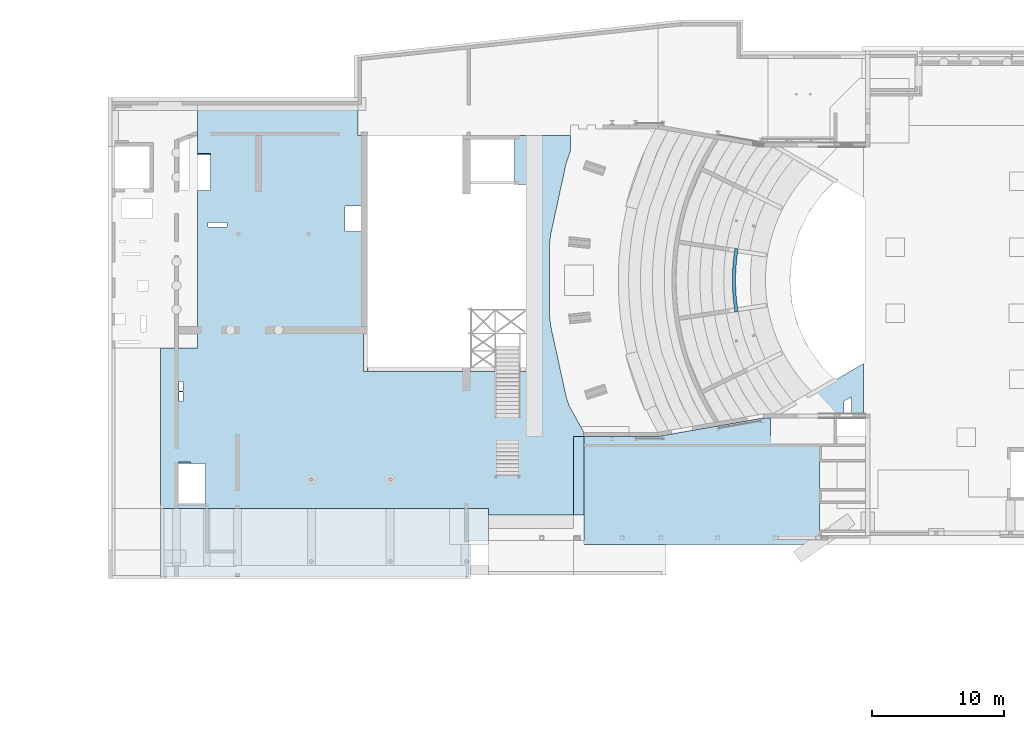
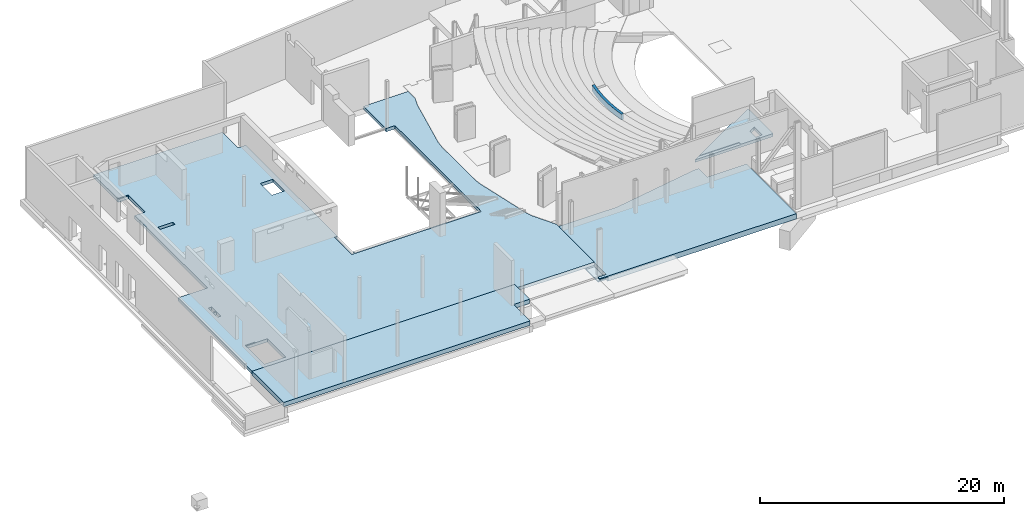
# One storey, part 31 of 34: 4 slabs, 1 beam.
"""IFC2X3 building model written with IfcOpenShell, lengths in millimetres."""

from ifc_helpers import new_model, entity, si_unit, converted_unit, derived_unit, direction, frame, origin, place, context, subcontext, project, spatial, faceted_brep, material, type_object, element, save


model = new_model("IFC2X3")

# Units and contexts
model_context = context("Model", 3, precision=0.01, world=origin(), true_north=direction((6.12303176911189e-17, 1.0)))
body_context = subcontext(model_context, "Body", "Model", "MODEL_VIEW")
ifc_project = project(units=[si_unit("LENGTHUNIT", "METRE", prefix="MILLI"), si_unit("AREAUNIT", "SQUARE_METRE", prefix="MILLI"), si_unit("VOLUMEUNIT", "CUBIC_METRE"), converted_unit("PLANEANGLEUNIT", "DEGREE", entity("IfcRatioMeasure", 0.0174532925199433), si_unit("PLANEANGLEUNIT", "RADIAN"), dimensions=[0, 0, 0, 0, 0, 0, 0]), si_unit("MASSUNIT", "GRAM", prefix="KILO"), derived_unit("MASSDENSITYUNIT", [(si_unit("MASSUNIT", "GRAM", prefix="KILO"), 1), (si_unit("LENGTHUNIT", "METRE"), -3)]), derived_unit("MOMENTOFINERTIAUNIT", [(si_unit("LENGTHUNIT", "METRE"), 4)]), si_unit("TIMEUNIT", "SECOND"), si_unit("FREQUENCYUNIT", "HERTZ"), si_unit("THERMODYNAMICTEMPERATUREUNIT", "DEGREE_CELSIUS"), derived_unit("THERMALTRANSMITTANCEUNIT", [(si_unit("MASSUNIT", "GRAM", prefix="KILO"), 1), (si_unit("THERMODYNAMICTEMPERATUREUNIT", "KELVIN"), -1), (si_unit("TIMEUNIT", "SECOND"), -3)]), derived_unit("VOLUMETRICFLOWRATEUNIT", [(si_unit("LENGTHUNIT", "METRE"), 3), (si_unit("TIMEUNIT", "SECOND"), -1)]), si_unit("ELECTRICCURRENTUNIT", "AMPERE"), si_unit("ELECTRICVOLTAGEUNIT", "VOLT"), si_unit("POWERUNIT", "WATT"), si_unit("FORCEUNIT", "NEWTON", prefix="KILO"), si_unit("ILLUMINANCEUNIT", "LUX"), si_unit("LUMINOUSFLUXUNIT", "LUMEN"), si_unit("LUMINOUSINTENSITYUNIT", "CANDELA"), derived_unit("USERDEFINED", [(si_unit("MASSUNIT", "GRAM", prefix="KILO"), -1), (si_unit("LENGTHUNIT", "METRE"), -2), (si_unit("TIMEUNIT", "SECOND"), 3), (si_unit("LUMINOUSFLUXUNIT", "LUMEN"), 1)]), derived_unit("LINEARVELOCITYUNIT", [(si_unit("LENGTHUNIT", "METRE"), 1), (si_unit("TIMEUNIT", "SECOND"), -1)]), si_unit("PRESSUREUNIT", "PASCAL"), derived_unit("USERDEFINED", [(si_unit("LENGTHUNIT", "METRE"), -2), (si_unit("MASSUNIT", "GRAM", prefix="KILO"), 1), (si_unit("TIMEUNIT", "SECOND"), -2)]), derived_unit("LINEARFORCEUNIT", [(si_unit("MASSUNIT", "GRAM", prefix="KILO"), 1), (si_unit("LENGTHUNIT", "METRE"), 1), (si_unit("TIMEUNIT", "SECOND"), -2), (si_unit("LENGTHUNIT", "METRE"), -1)]), derived_unit("PLANARFORCEUNIT", [(si_unit("MASSUNIT", "GRAM", prefix="KILO"), 1), (si_unit("LENGTHUNIT", "METRE"), 1), (si_unit("TIMEUNIT", "SECOND"), -2), (si_unit("LENGTHUNIT", "METRE"), -2)])], contexts=[model_context])

# Site, building, storey
site_placement = place(None, origin())
site = spatial("IfcSite", under=ifc_project, at=site_placement, Name="Theater aan de Parade", CompositionType="ELEMENT")
building_placement = place(site_placement, origin())
building = spatial("IfcBuilding", under=site, at=building_placement, Name="Theater aan de Parade", CompositionType="ELEMENT")
storey_placement = place(building_placement, frame((0.0, 0.0, 3.49116848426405e-09)))
storey = spatial("IfcBuildingStorey", under=building, at=storey_placement, Name="00 begane grond", CompositionType="ELEMENT", Elevation=3.49116848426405e-09)

# Beam
ifc_material_1 = material(Name="00_PBT_MAT_beton t.p.g.")
beam_type = type_object("IfcBeamType", Name="28_PBT_SF_betonbalk:250x580_bestaand", PredefinedType="NOTDEFINED")
beam_placement = place(storey_placement, frame((57279.5739373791, 30050.2210361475, 770.0)))
element("IfcBeam", 1, at=beam_placement, inside=storey, type_object=beam_type, material=ifc_material_1, Name="28_PBT_SF_betonbalk:250x580_bestaand", ObjectType="28_PBT_SF_betonbalk:250x580_bestaand", context=body_context, shape_type="Brep", body=[
    faceted_brep([(262.668675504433, 1800.38793189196, 580.0), (251.746790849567, 2205.92074467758, 580.0), (251.998499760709, 2611.60052782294, 580.0), (263.423611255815, 3017.11947514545, 580.0), (286.013456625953, 3422.16990249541, 580.0), (319.750896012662, 3826.44448120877, 580.0), (364.610331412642, 4229.63647129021, 580.0), (420.557726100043, 4631.43995414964, 580.0), (443.362356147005, 4780.18973734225, 580.0), (196.17564158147, 4817.59248750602, 580.0), (173.444874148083, 4669.32449453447, 580.0), (70.9268726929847, 3850.66441966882, 580.0), (13.6434460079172, 3027.60131891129, 580.0), (13.2595707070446, 2408.90868660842, 580.0), (12.875695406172, 1790.21605430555, 580.0), (69.1377195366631, 967.082502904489, 580.0), (170.639747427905, 148.295841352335, 580.0), (193.186470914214, 0.0, 580.0), (440.372777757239, 37.4026884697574, 580.0), (417.799420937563, 185.873704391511, 580.0), (362.350676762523, 587.746304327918, 580.0), (317.991606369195, 990.993651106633, 580.0), (284.755866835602, 1395.30978413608, 580.0), (162.265071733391, 4595.16183631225, 291.305519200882), (151.456775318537, 4520.94412558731, 291.213909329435), (11.2670883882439, 1831.09195720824, 0.0), (151.456775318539, 4520.94412558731, 0.0), (61.982656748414, 3755.6366146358, 0.0), (173.444874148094, 4669.32449453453, 291.314645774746), (11.9841829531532, 2986.72914133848, 0.0), (60.3112760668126, 1062.12308118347, 0.0), (148.835698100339, 296.704059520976, 0.0), (159.551638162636, 222.474668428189, 0.0), (170.639747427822, 148.295841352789, 0.0), (156.921712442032, 4520.11720542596, 0.0), (201.80492733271, 4816.74069913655, 0.0), (443.362356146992, 4780.18973734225, 0.0), (420.557726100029, 4631.43995414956, 0.0), (409.416466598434, 4557.51577313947, 0.0), (398.651196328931, 4483.54020933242, 0.0), (349.918716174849, 4108.23007485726, 0.0), (310.84495855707, 3731.78110789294, 0.0), (281.457212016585, 3354.45215909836, 0.0), (261.774916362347, 2976.49274524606, 0.0), (251.811062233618, 2598.15241588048, 0.0), (251.572226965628, 2219.68099715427, 0.0), (261.058567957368, 1841.32840170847, 0.0), (280.263822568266, 1463.34446376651, 0.0), (309.175312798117, 1085.9787681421, 0.0), (347.773943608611, 709.480579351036, 0.0), (396.032828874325, 334.108385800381, 0.0), (406.727327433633, 259.965401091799, 0.0), (417.799420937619, 185.873704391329, 0.0), (440.37277775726, 37.4026884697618, 0.0), (193.186470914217, 0.0, 0.0), (156.92171244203, 4520.11720542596, 290.0), (201.804927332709, 4816.74069913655, 290.0), (196.175641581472, 4817.59248750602, 291.250415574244)], [[[0, 1, 2, 3, 4, 5, 6, 7, 8, 9, 10, 11, 12, 13, 14, 15, 16, 17, 18, 19, 20, 21, 22]], [[23, 24, 10]], [[25, 14, 13]], [[26, 27, 24]], [[24, 27, 11]], [[28, 23, 10]], [[10, 24, 11]], [[27, 12, 11]], [[27, 29, 12]], [[15, 30, 31]], [[31, 32, 16]], [[33, 16, 32]], [[12, 29, 13]], [[30, 14, 25]], [[30, 15, 14]], [[31, 16, 15]], [[29, 25, 13]], [[25, 29, 27, 26, 34, 35, 36, 37, 38, 39, 40, 41, 42, 43, 44, 45, 46, 47, 48, 49, 50, 51, 52, 53, 54, 33, 32, 31, 30]], [[39, 38, 7]], [[39, 6, 40]], [[3, 43, 42]], [[42, 41, 4]], [[41, 40, 5]], [[44, 43, 2]], [[7, 38, 37]], [[7, 6, 39]], [[6, 5, 40]], [[5, 4, 41]], [[42, 4, 3]], [[3, 2, 43]], [[2, 45, 44]], [[47, 46, 0]], [[47, 22, 48]], [[19, 51, 50]], [[50, 49, 20]], [[49, 48, 21]], [[52, 51, 19]], [[45, 1, 46]], [[1, 0, 46]], [[2, 1, 45]], [[0, 22, 47]], [[22, 21, 48]], [[49, 21, 20]], [[20, 19, 50]], [[55, 34, 26, 24]], [[35, 34, 55, 56]], [[24, 23, 28, 57, 56, 55]], [[28, 10, 9, 57]], [[7, 37, 36, 8]], [[57, 9, 8, 36, 35, 56]], [[52, 19, 18, 53]], [[16, 33, 54, 17]], [[18, 17, 54, 53]]]),
])

# Slabs
ifc_material_2 = material(Name="00_PBT_MAT_beton t.p.g._C30/37")
slab_type_1 = type_object("IfcSlabType", Name="Floor:28_PBT_FL_beton t.p.g._d=320_C30/37", PredefinedType="FLOOR")
slab_1_placement = place(storey_placement, origin())
element("IfcSlab", 2, at=slab_1_placement, inside=storey, type_object=slab_type_1, material=ifc_material_2, Name="Floor:28_PBT_FL_beton t.p.g._d=320_C30/37", ObjectType="Floor:28_PBT_FL_beton t.p.g._d=320_C30/37", PredefinedType="FLOOR", context=body_context, shape_type="Brep", body=[
    faceted_brep([(29687.7000000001, 25854.8674033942, -112.500000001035), (29687.7000000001, 25854.8674033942, -410.0), (29675.0, 25854.8674033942, -410.0), (29675.0, 25854.8674033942, -90.0), (29687.7000000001, 25854.8674033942, -90.0), (41641.1683762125, 25854.8674033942, -112.500000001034), (41641.1683762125, 25854.8674033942, -90.0), (41653.8683762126, 25854.8674033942, -90.0), (41653.8683762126, 25854.8674033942, -112.500000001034), (17774.9990363, 41955.9980903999, -410.0), (16775.0, 43200.0, -410.0), (16775.0, 43700.0, -410.0), (16775.0, 41955.9980903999, -410.0), (16775.0, 45303.0, -410.0), (28938.8975663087, 45303.0, -410.0), (28938.8975663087, 43700.0, -410.0), (28938.8975663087, 43400.0, -410.0), (27975.0, 38075.0, -410.0), (17774.9990363, 39245.9980904, -410.0), (28938.8975663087, 45973.0, -410.0), (16775.0, 45973.0, -410.0), (29675.0, 41840.0, -410.0), (29675.0, 43200.0, -410.0), (29675.0, 43400.0, -410.0), (29675.0, 39840.0, -410.0), (29175.0, 38075.0, -410.0), (29175.0, 36163.0438951, -410.0), (29675.0, 34256.08488131, -410.0), (27975.0, 36163.0438951, -410.0), (29675.0, 29660.0001789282, -410.0), (19026.928501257, 36493.8448006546, -410.0), (16775.0, 29839.0, -410.0), (29517.0235039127, 28373.3144998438, -410.0), (29675.0, 28373.3144998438, -410.0), (16775.0, 29589.0, -410.0), (16775.0, 27320.0, -410.0), (29517.0235039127, 25554.8674033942, -410.0), (15703.8570025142, 23278.3144998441, -410.0), (17378.8570139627, 18584.9752768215, -410.0), (17378.8570139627, 15564.9752768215, -410.0), (38815.0, 15190.0, -410.0), (29675.0, 25554.8674033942, -410.0), (41641.1683762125, 25696.8909073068, -410.0), (29687.7000000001, 25696.8909073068, -410.0), (44929.0881965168, 22961.0800137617, -410.0), (44706.9742068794, 23624.9063280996, -410.0), (42441.5683762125, 25712.8438994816, -410.0), (41641.1683762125, 25712.8438994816, -410.0), (42441.5683762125, 25854.8674033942, -410.0), (43529.1573722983, 29019.1174439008, -410.0), (41653.8683762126, 25854.8674033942, -410.0), (43454.3698075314, 29715.110849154, -410.0), (43451.5192961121, 35198.3615167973, -410.0), (41653.8683762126, 39700.0, -410.0), (43526.3068608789, 35894.3549220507, -410.0), (44702.0506482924, 41300.3787601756, -410.0), (42903.8683762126, 43400.0, -410.0), (41653.8683762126, 43400.0, -410.0), (40803.8581275, 43100.0, -410.0), (40803.8581275, 39700.0, -410.0), (41103.8581275, 43400.0, -410.0), (40803.8581275, 43400.0, -410.0), (45025.0, 42265.5691032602, -410.0), (45025.0, 43400.0, -410.0), (46044.2615211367, 20630.0, -410.0), (46044.2615211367, 20930.0, -410.0), (45275.0, 14669.9996942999, -410.0), (46044.2615211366, 14669.9996942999, -410.0), (38815.0, 14669.9996942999, -410.0), (14244.1133121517, 15190.0, -410.0), (15353.8570025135, 15564.9752768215, -410.0), (13994.1133121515, 15440.6729253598, -410.0), (13994.1133121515, 15190.0, -410.0), (15353.8570025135, 18584.9752768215, -410.0), (15403.8570025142, 23278.3144998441, -410.0), (13994.1133121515, 27320.0, -410.0), (15403.8570025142, 23978.3144998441, -410.0), (15403.8570025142, 24090.4992103, -410.0), (15403.8570025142, 24790.4992103, -410.0), (14244.1133121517, 27320.0, -410.0), (16275.0, 27320.0, -410.0), (15703.8570025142, 24790.4992103, -410.0), (15703.8570025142, 23978.3144998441, -410.0), (15703.8570025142, 24090.4992103, -410.0), (16775.0, 35813.0, -410.0), (17576.928501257, 36493.8448006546, -410.0), (16775.0, 36063.0, -410.0), (17576.928501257, 36843.8448006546, -410.0), (16775.0, 39245.9980904, -410.0), (19026.928501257, 36843.8448006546, -410.0), (41167.8581275, 43400.0, -90.0), (44702.0506482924, 41300.3787601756, -90.0), (45025.0, 42265.5691032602, -90.0), (41653.8683762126, 39700.0, -90.0), (45025.0, 43400.0, -90.0), (40803.8581275, 43100.0, -90.0), (40803.8581275, 43400.0, -90.0), (40803.8581275, 39700.0, -90.0), (43526.3068608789, 35894.3549220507, -90.0), (43451.5192961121, 35198.3615167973, -90.0), (43454.3698075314, 29715.110849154, -90.0), (43529.1573722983, 29019.1174439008, -90.0), (44706.9742068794, 23624.9063280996, -90.0), (41641.1683762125, 25554.8674033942, -90.0), (44929.0881965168, 22961.0800137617, -90.0), (38815.0, 15190.0, -90.0), (29687.7000000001, 25554.8674033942, -90.0), (29675.0, 25554.8674033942, -90.0), (29375.0, 25554.8674033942, -90.0), (17378.8570139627, 15564.9752768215, -90.0), (17378.8570139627, 18584.9752768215, -90.0), (15703.8570025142, 23278.3144998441, -90.0), (16775.0, 27320.0, -90.0), (29375.0, 28373.3144998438, -90.0), (19026.928501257, 36493.8448006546, -90.0), (27975.0, 36163.0438951, -90.0), (29675.0, 28973.3144998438, -90.0), (29675.0, 28373.3144998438, -90.0), (29175.0, 36163.0438951, -90.0), (29675.0, 43400.0, -90.0), (29175.0, 38075.0, -90.0), (29175.0, 43400.0, -90.0), (28938.8975663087, 43400.0, -90.0), (27975.0, 38075.0, -90.0), (17775.0, 42055.9980903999, -90.0), (28938.8975663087, 45723.0, -90.0), (16775.0, 45973.0, -90.0), (28938.8975663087, 45973.0, -90.0), (16775.0, 42055.9980903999, -90.0), (17774.9990363, 39245.9980904, -90.0), (19026.928501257, 36843.8448006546, -90.0), (17576.928501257, 36843.8448006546, -90.0), (16775.0, 39245.9980904, -90.0), (17576.928501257, 36493.8448006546, -90.0), (15703.8570025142, 23978.3144998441, -90.0), (15703.8570025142, 24090.4992103, -90.0), (15703.8570025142, 24790.4992103, -90.0), (15403.8570025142, 24790.4992103, -90.0), (13994.1133121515, 27320.0, -90.0), (15403.8570025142, 24090.4992103, -90.0), (15403.8570025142, 23978.3144998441, -90.0), (15403.8570025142, 23278.3144998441, -90.0), (13994.1133121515, 15190.0, -90.0), (15353.8570025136, 18684.975276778, -90.0), (15353.8570025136, 18672.3401487, -90.0), (15353.8570025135, 15564.9752768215, -90.0), (16263.8570025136, 18684.975276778, -90.0), (16263.8570025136, 18584.9752768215, -90.0), (45797.1870618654, 21380.0, -90.0), (46044.2615211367, 20630.0, -90.0), (46044.2615211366, 14669.9996942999, -90.0), (38815.0, 14669.9996942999, -90.0), (46044.2615211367, 20930.0, -90.0), (16775.0, 41955.9980903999, -110.0), (16775.0, 42055.9980903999, -110.0), (46044.2615211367, 20930.0, -360.0), (42441.5683762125, 25711.5547794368, -405.340145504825), (42441.5683762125, 25711.1174033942, -400.500000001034), (42441.5683762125, 25711.1174033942, -139.500000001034), (42441.5683762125, 25713.0944326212, -134.727029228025), (42441.5683762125, 25715.0714618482, -129.954058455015), (42441.5683762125, 25717.0484910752, -125.181087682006), (42441.5683762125, 25719.0255203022, -120.408116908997), (42441.5683762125, 25723.7984910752, -118.431087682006), (42441.5683762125, 25728.5714618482, -116.454058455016), (42441.5683762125, 25734.2705244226, -114.093429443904), (42441.5683762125, 25738.1174033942, -112.500000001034), (42441.5683762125, 25854.8674033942, -112.500000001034), (29687.7000000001, 25554.8674033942, -112.500000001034), (29687.7000000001, 25671.6174033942, -112.500000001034), (29687.7000000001, 25676.8445473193, -114.665153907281), (29687.7000000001, 25681.1633449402, -116.454058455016), (29687.7000000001, 25685.9363157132, -118.431087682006), (29687.7000000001, 25690.7092864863, -120.408116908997), (29687.7000000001, 25692.6863157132, -125.181087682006), (29687.7000000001, 25694.6633449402, -129.954058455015), (29687.7000000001, 25696.452249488, -134.27285607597), (29687.7000000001, 25698.6174033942, -139.500000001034), (29687.7000000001, 25698.6174033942, -400.500000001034), (29687.7000000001, 25698.1800273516, -405.340145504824), (41641.1683762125, 25738.1174033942, -112.500000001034), (41641.1683762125, 25733.3444326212, -114.477029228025), (41641.1683762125, 25719.0255203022, -120.408116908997), (41641.1683762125, 25723.7984910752, -118.431087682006), (41641.1683762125, 25728.5714618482, -116.454058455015), (41641.1683762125, 25711.1174033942, -139.500000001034), (41641.1683762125, 25714.30426228, -131.806242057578), (41641.1683762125, 25716.6648912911, -126.107179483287), (41641.1683762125, 25711.1174033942, -400.500000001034), (41641.1683762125, 25711.5525336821, -405.32780459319), (41641.1683762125, 25698.1800273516, -405.340145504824), (41641.1683762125, 25698.6174033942, -400.500000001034), (41641.1683762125, 25698.6174033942, -139.500000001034), (41641.1683762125, 25696.452249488, -134.272856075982), (41641.1683762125, 25694.6633449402, -129.954058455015), (41641.1683762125, 25692.6863157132, -125.181087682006), (41641.1683762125, 25690.7092864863, -120.408116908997), (41641.1683762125, 25686.3904888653, -118.619212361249), (41641.1683762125, 25682.0716912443, -116.8303078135), (41641.1683762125, 25676.8445473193, -114.665153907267), (41641.1683762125, 25671.6174033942, -112.500000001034), (41641.1683762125, 25554.8674033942, -112.500000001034), (29518.3126239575, 25554.8674033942, -405.340145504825), (29518.7500000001, 25554.8674033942, -400.500000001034), (29518.7500000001, 25554.8674033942, -139.500000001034), (29516.9399522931, 25554.8674033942, -135.130158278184), (29514.7959415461, 25554.8674033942, -129.954058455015), (29512.8189123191, 25554.8674033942, -125.181087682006), (29510.8418830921, 25554.8674033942, -120.408116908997), (29506.0689123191, 25554.8674033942, -118.431087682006), (29501.2959415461, 25554.8674033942, -116.454058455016), (29496.5229707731, 25554.8674033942, -114.477029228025), (29491.7500000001, 25554.8674033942, -112.500000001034), (29375.0, 25554.8674033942, -112.500000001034), (29675.0, 25554.8674033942, -112.500000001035), (35493.5192134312, 25671.6174033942, -112.500000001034), (29491.7500000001, 28373.3144998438, -112.500000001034), (29375.0, 28373.3144998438, -112.500000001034), (35664.4341881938, 25694.0670829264, -124.499603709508), (34803.5567151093, 25690.8868042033, -120.587300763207), (35493.5971405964, 25698.6174033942, -139.500000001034), (35664.4341880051, 25687.0345999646, -117.334485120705), (29675.0, 28373.3144998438, -112.500000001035), (29496.119841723, 28373.3144998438, -114.310047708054), (29500.4896834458, 28373.3144998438, -116.120095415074), (29505.665783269, 28373.3144998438, -118.264106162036), (29510.8418830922, 28373.3144998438, -120.408116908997), (29512.8189123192, 28373.3144998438, -125.181087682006), (29514.7959415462, 28373.3144998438, -129.954058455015), (29516.7729707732, 28373.3144998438, -134.727029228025), (29518.7500000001, 28373.3144998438, -139.500000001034), (29518.7500000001, 28373.3144998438, -400.500000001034), (29518.3126239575, 28373.3144998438, -405.340145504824), (17774.9990363, 41955.9980903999, -110.0), (17774.9990363, 42055.9980903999, -110.0), (16263.8570025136, 18684.975276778, -110.0), (15353.8570025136, 18684.975276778, -110.0), (15353.8570025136, 18584.9752768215, -110.0), (16263.8570025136, 18584.975276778, -110.0)], [[[0, 1, 2, 3, 4]], [[5, 6, 7, 8]], [[9, 10, 11]], [[12, 10, 9]], [[11, 13, 9]], [[13, 14, 9]], [[14, 15, 9]], [[15, 16, 9]], [[9, 16, 17]], [[18, 9, 17]], [[14, 13, 19]], [[13, 20, 19]], [[17, 16, 21]], [[21, 16, 22]], [[22, 16, 23]], [[24, 17, 21]], [[24, 25, 17]], [[25, 24, 26]], [[27, 26, 24]], [[26, 27, 28]], [[29, 28, 27]], [[29, 30, 28]], [[29, 31, 30]], [[29, 32, 31]], [[29, 33, 32]], [[34, 31, 32]], [[35, 34, 32]], [[36, 35, 32]], [[35, 36, 37]], [[37, 36, 38]], [[36, 39, 38]], [[40, 39, 36]], [[36, 41, 40]], [[40, 41, 42]], [[42, 41, 43]], [[2, 43, 41]], [[2, 1, 43]], [[44, 40, 42]], [[44, 42, 45]], [[42, 46, 45]], [[47, 46, 42]], [[46, 48, 45]], [[45, 48, 49]], [[49, 48, 50]], [[49, 50, 51]], [[51, 50, 52]], [[52, 50, 53]], [[52, 53, 54]], [[55, 54, 53]], [[55, 53, 56]], [[53, 57, 56]], [[57, 53, 58]], [[58, 53, 59]], [[60, 57, 58]], [[58, 61, 60]], [[56, 62, 55]], [[56, 63, 62]], [[40, 44, 64]], [[64, 44, 65]], [[40, 64, 66]], [[64, 67, 66]], [[66, 68, 40]], [[39, 40, 69]], [[69, 70, 39]], [[71, 70, 69]], [[72, 71, 69]], [[70, 71, 73]], [[71, 74, 73]], [[75, 74, 71]], [[75, 76, 74]], [[76, 75, 77]], [[77, 75, 78]], [[75, 79, 78]], [[80, 78, 79]], [[81, 80, 35]], [[80, 81, 78]], [[76, 77, 82]], [[77, 83, 82]], [[81, 35, 83]], [[82, 83, 35]], [[82, 35, 37]], [[73, 74, 37]], [[38, 73, 37]], [[84, 30, 31]], [[84, 85, 30]], [[86, 85, 84]], [[85, 86, 87]], [[86, 88, 87]], [[87, 88, 18]], [[89, 18, 17]], [[89, 87, 18]], [[89, 28, 30]], [[28, 89, 17]], [[90, 91, 92]], [[90, 93, 91]], [[92, 94, 90]], [[95, 93, 90]], [[90, 96, 95]], [[95, 97, 93]], [[91, 93, 98]], [[98, 93, 99]], [[99, 93, 7]], [[100, 99, 7]], [[100, 7, 101]], [[102, 101, 7]], [[7, 103, 102]], [[103, 7, 6]], [[104, 102, 103]], [[105, 104, 103]], [[103, 106, 105]], [[107, 105, 106]], [[107, 106, 3]], [[106, 4, 3]], [[107, 108, 105]], [[108, 109, 105]], [[109, 108, 110]], [[110, 108, 111]], [[111, 108, 112]], [[108, 113, 112]], [[114, 112, 113]], [[115, 114, 113]], [[115, 113, 116]], [[116, 113, 117]], [[115, 116, 118]], [[119, 118, 116]], [[120, 118, 119]], [[121, 120, 119]], [[121, 122, 120]], [[120, 122, 123]], [[124, 123, 122]], [[124, 122, 125]], [[124, 125, 126]], [[125, 127, 126]], [[126, 128, 124]], [[129, 123, 124]], [[130, 123, 129]], [[130, 129, 131]], [[131, 129, 132]], [[131, 132, 133]], [[112, 133, 132]], [[112, 114, 133]], [[115, 130, 114]], [[123, 130, 115]], [[111, 112, 134]], [[134, 112, 135]], [[135, 112, 136]], [[136, 112, 137]], [[112, 138, 137]], [[139, 137, 138]], [[138, 140, 139]], [[140, 138, 141]], [[141, 138, 142]], [[109, 142, 105]], [[143, 141, 142]], [[142, 144, 143]], [[144, 142, 145]], [[145, 142, 109]], [[146, 111, 143]], [[111, 141, 143]], [[146, 147, 110]], [[110, 111, 146]], [[105, 148, 104]], [[105, 149, 148]], [[150, 149, 105]], [[151, 150, 105]], [[152, 148, 149]], [[139, 140, 134]], [[134, 135, 139]], [[19, 20, 126, 127]], [[16, 15, 14, 19, 127, 125, 122]], [[69, 40, 105, 142, 72]], [[71, 72, 142, 138, 75]], [[79, 75, 138, 112, 35, 80]], [[10, 12, 153, 154, 128, 126, 20, 13, 11]], [[31, 34, 35, 112, 132, 88, 86, 84]], [[57, 60, 61, 96, 90, 94, 63, 56]], [[23, 16, 122, 121, 119]], [[40, 68, 151, 105]], [[64, 65, 155, 152, 149, 150, 67]], [[66, 67, 150, 151, 68]], [[156, 157, 158, 159, 160, 161, 162, 163, 164, 165, 166, 167, 48, 46]], [[1, 0, 4, 106, 168, 169, 170, 171, 172, 173, 174, 175, 176, 177, 178, 179, 43]], [[8, 50, 48, 167]], [[8, 167, 166, 180, 5]], [[181, 180, 166, 165, 164, 163, 162, 182, 183, 184]], [[161, 160, 159, 158, 185, 186, 187, 182, 162]], [[188, 185, 158, 157]], [[189, 188, 157]], [[156, 189, 157]], [[46, 47, 156]], [[189, 156, 47]], [[42, 190, 191, 192, 193, 194, 195, 196, 197, 198, 199, 200, 201, 103, 6, 5, 180, 181, 184, 183, 182, 187, 186, 185, 188, 189, 47]], [[168, 106, 103, 201]], [[36, 202, 203, 204, 205, 206, 207, 208, 209, 210, 211, 212, 213, 108, 107, 214, 41]], [[201, 200, 215, 169, 168]], [[216, 217, 213, 212]], [[218, 219, 196]], [[215, 200, 199, 198, 171, 170, 169]], [[220, 177, 176, 175, 194, 193, 192]], [[218, 175, 174]], [[218, 196, 195, 194]], [[219, 172, 221]], [[221, 198, 197, 196]], [[221, 171, 198]], [[219, 173, 172]], [[196, 219, 221]], [[218, 194, 175]], [[171, 221, 172]], [[173, 219, 174]], [[174, 219, 218]], [[191, 178, 177, 220, 192]], [[191, 190, 179, 178]], [[179, 190, 42, 43]], [[33, 222, 117, 113, 217, 216, 223, 224, 225, 226, 227, 228, 229, 230, 231, 232, 32]], [[3, 2, 41, 214, 107]], [[217, 113, 108, 213]], [[225, 224, 223, 216, 212, 211, 210, 209, 208, 226]], [[207, 206, 205, 204, 230, 229, 228, 227, 226, 208]], [[231, 230, 204, 203]], [[203, 202, 232, 231]], [[36, 32, 232, 202]], [[59, 53, 93, 97]], [[8, 7, 93, 53, 50]], [[58, 59, 97, 95, 96, 61]], [[21, 22, 23, 119, 116, 117, 222, 33, 29, 27, 24]], [[62, 63, 94, 92]], [[55, 62, 92, 91]], [[54, 55, 91, 98]], [[52, 54, 98, 99]], [[51, 52, 99, 100]], [[49, 51, 100, 101]], [[18, 88, 132, 129]], [[18, 129, 233, 9]], [[233, 124, 234]], [[124, 233, 129]], [[12, 9, 233, 153]], [[28, 17, 123, 115]], [[26, 28, 115, 118]], [[25, 26, 118, 120]], [[17, 25, 120, 123]], [[78, 137, 139, 77]], [[76, 140, 141, 74]], [[77, 139, 135, 83]], [[83, 135, 136, 81]], [[37, 111, 134, 82]], [[81, 136, 137, 78]], [[37, 74, 141, 111]], [[76, 82, 134, 140]], [[87, 89, 130, 131]], [[85, 87, 131, 133]], [[30, 85, 133, 114]], [[30, 114, 130, 89]], [[45, 49, 101, 102]], [[44, 45, 102, 104]], [[155, 65, 44, 104, 148, 152]], [[235, 236, 237, 238]], [[154, 153, 233, 234]], [[236, 143, 144, 145, 70, 73, 237]], [[238, 147, 146, 235]], [[235, 146, 143, 236]], [[110, 147, 238]], [[73, 38, 110, 238, 237]], [[70, 145, 109, 39]], [[38, 39, 109, 110]], [[154, 234, 124, 128]]]),
])
slab_type_2 = type_object("IfcSlabType", Name="Floor:28_PBT_FL_druklaag_d=60 (=445)_C30/37", PredefinedType="FLOOR")
slab_2_placement = place(storey_placement, origin())
element("IfcSlab", 3, at=slab_2_placement, inside=storey, type_object=slab_type_2, material=ifc_material_2, Name="Floor:28_PBT_FL_druklaag_d=60 (=445)_C30/37", ObjectType="Floor:28_PBT_FL_druklaag_d=60 (=445)_C30/37", PredefinedType="FLOOR", context=body_context, shape_type="Brep", body=[
    faceted_brep([(37303.8581300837, 10040.0, -535.0), (13994.1133121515, 10040.0, -535.0), (13994.1133121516, 15190.0, -535.0), (14244.1133121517, 15190.0, -535.0), (14903.857002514, 15190.0, -535.0), (15503.857002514, 15190.0, -535.0), (17253.8570025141, 15190.0, -535.0), (17753.8570025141, 15190.0, -535.0), (19503.857002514, 15190.0, -535.0), (20103.857002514, 15190.0, -535.0), (25110.0, 15190.0, -535.0), (25710.0, 15190.0, -535.0), (31075.0, 15190.0, -535.0), (31675.0, 15190.0, -535.0), (38815.0, 15190.0, -535.0), (38815.0, 12741.3513689, -535.0), (37303.8581300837, 12741.3513689, -535.0), (13994.1133121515, 10040.0, -90.0), (19653.8570025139, 10040.0, -90.0), (19953.8570025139, 10040.0, -90.0), (37303.8581300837, 10040.0, -90.0), (37303.8581300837, 12625.4619948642, -90.0), (37303.8581300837, 12741.3513689, -90.0), (38815.0, 12741.3513689, -90.0), (38815.0, 12750.0, -90.0), (38815.0, 14669.9996942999, -90.0), (38815.0, 15190.0, -90.0), (13994.1133121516, 15190.0, -90.0), (13994.1133121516, 15190.0, -410.0), (19953.857002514, 15190.0, -530.0), (36004.2581300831, 15190.0, -530.0), (36004.2581300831, 15190.0, -150.0), (19953.857002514, 15190.0, -150.0), (17603.857002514, 15190.0, -530.0), (19653.8570025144, 15190.0, -530.0), (19653.8570025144, 15190.0, -150.0), (17603.857002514, 15190.0, -150.0), (15353.8570025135, 15190.0, -530.0), (17403.8570025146, 15190.0, -530.0), (17403.8570025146, 15190.0, -150.0), (15353.8570025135, 15190.0, -150.0), (14153.8570025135, 15190.0, -530.0), (15053.8570025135, 15190.0, -530.0), (15053.8570025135, 15190.0, -150.0), (14153.8570025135, 15190.0, -150.0), (38815.0, 15190.0, -410.0), (19953.8570025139, 10769.32707464, -530.0), (37003.8581300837, 10769.32707464, -530.0), (37003.8581300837, 12590.3177017, -530.0), (36004.2581300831, 12590.3177017, -530.0), (19953.8570025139, 10769.32707464, -150.0), (36004.2581300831, 12590.3177017, -150.0), (37003.8581300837, 12590.3177017, -150.0), (37003.8581300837, 10769.32707464, -150.0), (17603.8570025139, 10769.3270746, -530.0), (19653.8570025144, 10769.3270746, -530.0), (19653.8570025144, 10769.3270746, -150.0), (17603.8570025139, 10769.3270746, -150.0), (15353.8570025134, 10769.3270746, -530.0), (17403.8570025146, 10769.3270746, -530.0), (17403.8570025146, 10769.3270746, -150.0), (15353.8570025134, 10769.3270746, -150.0), (14153.8570025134, 10769.3270746, -530.0), (15053.8570025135, 10769.3270746, -530.0), (15053.8570025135, 10769.3270746, -150.0), (14153.8570025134, 10769.3270746, -150.0)], [[[0, 1, 2, 3, 4, 5, 6, 7, 8, 9, 10, 11, 12, 13, 14, 15, 16]], [[17, 18, 19, 20, 21, 22, 23, 24, 25, 26, 27]], [[1, 0, 20, 19, 18, 17]], [[2, 1, 17, 27, 28]], [[29, 30, 31, 32], [33, 34, 35, 36], [37, 38, 39, 40], [41, 42, 43, 44], [14, 13, 12, 11, 10, 9, 8, 7, 6, 5, 4, 3, 2, 28, 27, 26, 45]], [[0, 16, 22, 21, 20]], [[15, 14, 45, 26, 25, 24, 23]], [[16, 15, 23, 22]], [[29, 46, 47, 48, 49, 30]], [[50, 32, 31, 51, 52, 53]], [[46, 50, 53, 47]], [[46, 29, 32, 50]], [[52, 48, 47, 53]], [[54, 55, 34, 33]], [[35, 56, 57, 36]], [[54, 33, 36, 57]], [[34, 55, 56, 35]], [[58, 59, 38, 37]], [[39, 60, 61, 40]], [[58, 37, 40, 61]], [[38, 59, 60, 39]], [[62, 63, 42, 41]], [[43, 64, 65, 44]], [[62, 41, 44, 65]], [[42, 63, 64, 43]], [[59, 58, 61, 60]], [[63, 62, 65, 64]], [[55, 54, 57, 56]], [[30, 49, 51, 31]], [[49, 48, 52, 51]]], outer=[[True], [True], [True], [True], [False, False, False, False, True], [True], [True], [True], [True], [True], [True], [True], [True], [True], [True], [True], [True], [True], [True], [True], [True], [True], [True], [True], [True], [True], [True], [True], [True], [True]]),
])
slab_type_3 = type_object("IfcSlabType", Name="Floor:28_PBT_FL_beton t.p.g._d=300_bestaand", PredefinedType="FLOOR")
slab_3_placement = place(storey_placement, origin())
element("IfcSlab", 4, at=slab_3_placement, inside=storey, type_object=slab_type_3, material=ifc_material_1, Name="Floor:28_PBT_FL_beton t.p.g._d=300_bestaand", ObjectType="Floor:28_PBT_FL_beton t.p.g._d=300_bestaand", PredefinedType="FLOOR", context=body_context, shape_type="Brep", body=[
    faceted_brep([(65720.0, 22340.0, 580.0), (66320.0, 22340.0, 580.0), (66320.0, 23640.0, 580.0), (65720.0, 23293.6522301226, 580.0), (59814.7867633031, 22040.0, 580.0), (60334.4956098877, 22340.0, 580.0), (62012.6009836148, 23308.6800896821, 580.0), (62835.36216141, 23783.6159214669, 580.0), (63122.6530414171, 23949.4535141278, 580.0), (63281.8480910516, 24041.3482648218, 580.0), (65111.2850451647, 25097.3839468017, 580.0), (65186.1611225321, 24967.671414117, 580.0), (67206.05955113, 26149.1067835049, 580.0), (67206.05955113, 22040.0, 580.0), (65447.0471551, 22040.0, 580.0), (67206.05955113, 22040.0, 880.0), (67206.05955113, 26149.1067835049, 880.0), (65186.1611225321, 24967.671414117, 880.0), (65111.2850451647, 25097.3839468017, 880.0), (63522.9272469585, 24180.5103115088, 880.0), (60334.4956098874, 22340.0, 880.0), (64170.0, 22340.0, 880.0), (64170.0, 22040.0, 880.0), (65420.0, 22040.0, 880.0), (66320.0, 22340.0, 880.0), (65720.0, 22340.0, 880.0), (65720.0, 23293.6522301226, 880.0), (66320.0, 23640.0, 880.0), (59814.7867633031, 22040.0, 840.0), (60334.4956098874, 22340.0, 840.0), (64170.0, 22040.0, 840.0), (64170.0, 22340.0, 840.0)], [[[0, 1, 2, 3], [4, 5, 6, 7, 8, 9, 10, 11, 12, 13, 14]], [[15, 16, 17, 18, 19, 20, 21, 22, 23], [24, 25, 26, 27]], [[10, 9, 8, 7, 6, 5, 4, 28, 29, 20, 19, 18]], [[1, 0, 25, 24]], [[2, 1, 24, 27]], [[3, 2, 27, 26]], [[0, 3, 26, 25]], [[4, 14, 13, 15, 23, 22, 30, 28]], [[13, 12, 16, 15]], [[30, 31, 29, 28]], [[31, 30, 22, 21]], [[29, 31, 21, 20]], [[12, 11, 17, 16]], [[11, 10, 18, 17]]], outer=[[False, True], [True, False], [True], [True], [True], [True], [True], [True], [True], [True], [True], [True], [True], [True]]),
])
slab_type_4 = type_object("IfcSlabType", Name="Floor:28_PBT_FL_beton t.p.g._d=530_C30/37", PredefinedType="FLOOR")
slab_4_placement = place(storey_placement, origin())
element("IfcSlab", 5, at=slab_4_placement, inside=storey, type_object=slab_type_4, material=ifc_material_2, Name="Floor:28_PBT_FL_beton t.p.g._d=530_C30/37", ObjectType="Floor:28_PBT_FL_beton t.p.g._d=530_C30/37", PredefinedType="FLOOR", context=body_context, shape_type="Brep", body=[
    faceted_brep([(63880.2595510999, 20654.9914355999, -680.0), (63880.2595510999, 12470.0, -680.0), (52275.0, 12470.0, -680.0), (46044.2615574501, 12470.0, -680.0), (46044.2615574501, 12750.0, -680.0), (45275.0, 12750.0, -680.0), (45275.0, 13669.9996942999, -680.0), (45275.0, 14669.9996942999, -680.0), (45275.0, 20630.0, -680.0), (45804.5700608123, 20630.0, -680.0), (49950.3377575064, 20630.0, -680.0), (51610.3377575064, 20630.0, -680.0), (52595.0, 20802.3158924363, -680.0), (54708.121740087, 21172.1121969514, -680.0), (59667.4806146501, 22040.0, -680.0), (60162.6896489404, 22040.0, -680.0), (60162.6896489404, 20654.9914355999, -680.0), (60948.0, 20654.9914355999, -680.0), (62923.0, 20654.9914355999, -680.0), (45275.0, 12470.0, -150.0), (63880.2595510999, 12470.0, -150.0), (63880.2595510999, 19866.34014876, -150.0), (63880.2595510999, 20066.34014876, -150.0), (63880.2595510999, 20654.9914355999, -150.0), (60162.6896489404, 20654.9914355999, -150.0), (60162.6896489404, 22040.0, -150.0), (59667.4806146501, 22040.0, -150.0), (51610.3377575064, 20630.0, -150.0), (49470.0, 20630.0, -150.0), (46044.2615211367, 20630.0, -150.0), (46044.2615574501, 12750.0, -150.0), (45275.0, 12750.0, -150.0), (45275.0, 12470.0, -250.0), (46044.2615574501, 12470.0, -250.0), (46044.2615574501, 12750.0, -250.0), (45275.0, 12750.0, -250.0), (46044.2615211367, 20630.0, -360.0), (46044.2615211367, 20630.0, -410.0), (46044.2615574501, 14669.9996942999, -410.0), (46044.2615574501, 14669.9996942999, -550.0), (46044.2615574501, 12750.0, -550.0), (45275.0, 20630.0, -410.0), (45275.0, 14669.9996942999, -410.0), (46044.2615211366, 14669.9996942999, -410.0), (45804.5700608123, 20630.0, -410.0), (45275.0, 12750.0, -550.0), (45275.0, 13669.9996942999, -550.0), (45275.0, 14669.9996942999, -550.0)], [[[0, 1, 2, 3, 4, 5, 6, 7, 8, 9, 10, 11, 12, 13, 14, 15, 16, 17, 18]], [[19, 20, 21, 22, 23, 24, 25, 26, 27, 28, 29, 30, 31]], [[20, 19, 32, 33, 3, 2, 1]], [[34, 33, 32, 35]], [[33, 34, 30, 29, 36, 37, 38, 39, 40, 4, 3]], [[41, 42, 43, 37, 44]], [[1, 0, 23, 22, 21, 20]], [[5, 4, 40, 45]], [[8, 7, 6, 5, 45, 46, 47, 42, 41]], [[11, 10, 9, 8, 41, 44, 37, 36, 29, 28, 27]], [[14, 13, 12, 11, 27, 26]], [[15, 14, 26, 25]], [[16, 15, 25, 24]], [[0, 18, 17, 16, 24, 23]], [[40, 39, 47, 46, 45]], [[30, 34, 35, 31]], [[39, 43, 42, 47]], [[32, 19, 31, 35]]]),
])

save(model, "model.ifc")
